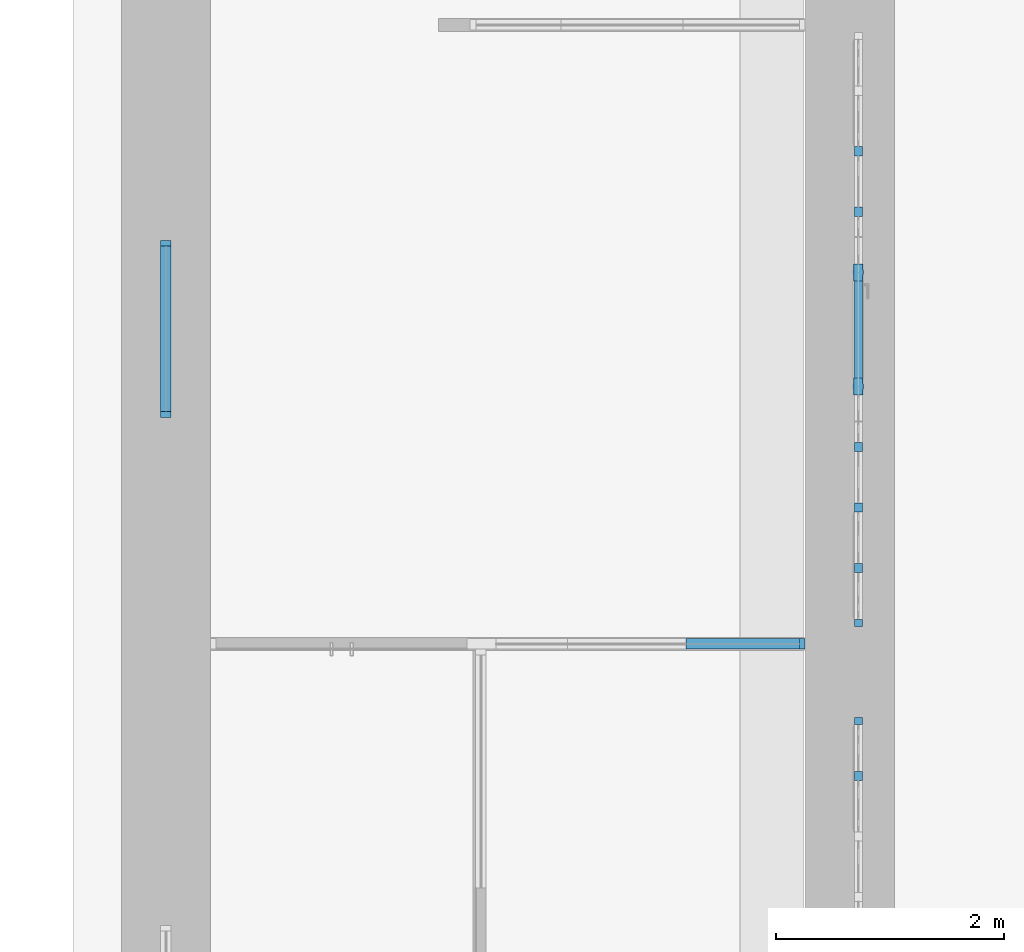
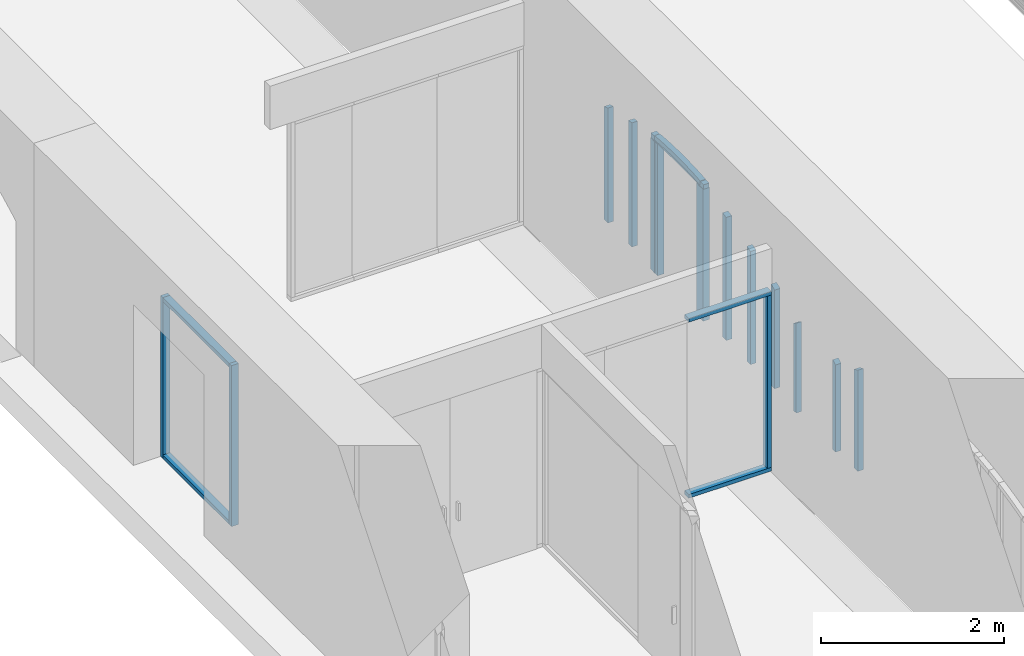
# One storey, part 6 of 88: 19 members, 4 elements without a shape of their own.
"""IFC2X3 building model written with IfcOpenShell, lengths in millimetres."""

from ifc_helpers import new_model, entity, si_unit, converted_unit, derived_unit, direction, frame, frame_2d, origin, origin_2d_with_axis, place, context, subcontext, project, spatial, polyline, circle_curve, parameter, trimmed, segment, composite_curve, rectangle, outline, extrude, source, transform, mapped, material, type_object, type_shapes, element, aggregate, save


model = new_model("IFC2X3")

# Units and contexts
model_context = context("Model", 3, precision=0.01, world=origin(), true_north=direction((6.123031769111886e-17, 1.0)))
body_context = subcontext(model_context, "Body", "Model", "MODEL_VIEW")
ifc_project = project(units=[si_unit("LENGTHUNIT", "METRE", prefix="MILLI"), si_unit("AREAUNIT", "SQUARE_METRE"), si_unit("VOLUMEUNIT", "CUBIC_METRE"), converted_unit("PLANEANGLEUNIT", "DEGREE", entity("IfcPlaneAngleMeasure", 0.017453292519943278), si_unit("PLANEANGLEUNIT", "RADIAN"), dimensions=[0, 0, 0, 0, 0, 0, 0]), si_unit("MASSUNIT", "GRAM", prefix="KILO"), derived_unit("MASSDENSITYUNIT", [(si_unit("MASSUNIT", "GRAM", prefix="KILO"), 1), (si_unit("LENGTHUNIT", "METRE"), -3)]), derived_unit("IONCONCENTRATIONUNIT", [(si_unit("MASSUNIT", "GRAM", prefix="KILO"), 1), (si_unit("LENGTHUNIT", "METRE"), -3)]), derived_unit("MOMENTOFINERTIAUNIT", [(si_unit("LENGTHUNIT", "METRE"), 4)]), si_unit("TIMEUNIT", "SECOND"), si_unit("FREQUENCYUNIT", "HERTZ"), si_unit("THERMODYNAMICTEMPERATUREUNIT", "DEGREE_CELSIUS"), derived_unit("THERMALTRANSMITTANCEUNIT", [(si_unit("MASSUNIT", "GRAM", prefix="KILO"), 1), (si_unit("THERMODYNAMICTEMPERATUREUNIT", "KELVIN"), -1), (si_unit("TIMEUNIT", "SECOND"), -3)]), derived_unit("THERMALCONDUCTANCEUNIT", [(si_unit("MASSUNIT", "GRAM", prefix="KILO"), 1), (si_unit("THERMODYNAMICTEMPERATUREUNIT", "KELVIN"), -1), (si_unit("TIMEUNIT", "SECOND"), -3), (si_unit("LENGTHUNIT", "METRE"), 1)]), derived_unit("VOLUMETRICFLOWRATEUNIT", [(si_unit("LENGTHUNIT", "METRE", prefix="DECI"), 3), (si_unit("TIMEUNIT", "SECOND"), -1)]), derived_unit("MASSFLOWRATEUNIT", [(si_unit("MASSUNIT", "GRAM", prefix="KILO"), 1), (si_unit("TIMEUNIT", "SECOND"), -1)]), derived_unit("ROTATIONALFREQUENCYUNIT", [(si_unit("TIMEUNIT", "SECOND"), -1)]), si_unit("ELECTRICCURRENTUNIT", "AMPERE"), si_unit("ELECTRICVOLTAGEUNIT", "VOLT"), si_unit("POWERUNIT", "WATT"), si_unit("FORCEUNIT", "NEWTON", prefix="KILO"), si_unit("ILLUMINANCEUNIT", "LUX"), si_unit("LUMINOUSFLUXUNIT", "LUMEN"), si_unit("LUMINOUSINTENSITYUNIT", "CANDELA"), si_unit("ENERGYUNIT", "JOULE"), derived_unit("USERDEFINED", [(si_unit("MASSUNIT", "GRAM", prefix="KILO"), -1), (si_unit("LENGTHUNIT", "METRE"), -2), (si_unit("TIMEUNIT", "SECOND"), 3), (si_unit("LUMINOUSFLUXUNIT", "LUMEN"), 1)]), derived_unit("USERDEFINED", [(si_unit("MASSUNIT", "GRAM", prefix="KILO"), 1), (si_unit("TIMEUNIT", "SECOND"), -3), (si_unit("LENGTHUNIT", "METRE"), 3), (si_unit("ELECTRICCURRENTUNIT", "AMPERE"), -2)]), derived_unit("SOUNDPOWERUNIT", [(si_unit("MASSUNIT", "GRAM", prefix="KILO"), 1), (si_unit("TIMEUNIT", "SECOND"), -3), (si_unit("LENGTHUNIT", "METRE"), 2)]), derived_unit("SOUNDPRESSUREUNIT", [(si_unit("MASSUNIT", "GRAM", prefix="KILO"), 1), (si_unit("LENGTHUNIT", "METRE"), -1), (si_unit("TIMEUNIT", "SECOND"), -2)]), derived_unit("LINEARVELOCITYUNIT", [(si_unit("LENGTHUNIT", "METRE"), 1), (si_unit("TIMEUNIT", "SECOND"), -1)]), si_unit("PRESSUREUNIT", "PASCAL"), derived_unit("USERDEFINED", [(si_unit("MASSUNIT", "GRAM", prefix="KILO"), 1), (si_unit("LENGTHUNIT", "METRE"), -2), (si_unit("TIMEUNIT", "SECOND"), -2)]), derived_unit("LINEARFORCEUNIT", [(si_unit("MASSUNIT", "GRAM", prefix="KILO"), 1), (si_unit("TIMEUNIT", "SECOND"), -2)]), derived_unit("PLANARFORCEUNIT", [(si_unit("MASSUNIT", "GRAM", prefix="KILO"), 1), (si_unit("LENGTHUNIT", "METRE"), -1), (si_unit("TIMEUNIT", "SECOND"), -2)]), derived_unit("SPECIFICHEATCAPACITYUNIT", [(si_unit("THERMODYNAMICTEMPERATUREUNIT", "KELVIN"), -1), (si_unit("LENGTHUNIT", "METRE"), 2), (si_unit("TIMEUNIT", "SECOND"), -2)]), derived_unit("HEATFLUXDENSITYUNIT", [(si_unit("MASSUNIT", "GRAM", prefix="KILO"), 1), (si_unit("TIMEUNIT", "SECOND"), -3)]), derived_unit("HEATINGVALUEUNIT", [(si_unit("LENGTHUNIT", "METRE"), 2), (si_unit("TIMEUNIT", "SECOND"), -2)]), derived_unit("VAPORPERMEABILITYUNIT", [(si_unit("LENGTHUNIT", "METRE"), -1), (si_unit("TIMEUNIT", "SECOND"), 1)]), derived_unit("DYNAMICVISCOSITYUNIT", [(si_unit("MASSUNIT", "GRAM", prefix="KILO"), 1), (si_unit("TIMEUNIT", "SECOND"), -1), (si_unit("LENGTHUNIT", "METRE"), -1)]), derived_unit("THERMALEXPANSIONCOEFFICIENTUNIT", [(si_unit("THERMODYNAMICTEMPERATUREUNIT", "KELVIN"), -1)]), derived_unit("MODULUSOFELASTICITYUNIT", [(si_unit("MASSUNIT", "GRAM", prefix="KILO"), 1), (si_unit("LENGTHUNIT", "METRE"), -1), (si_unit("TIMEUNIT", "SECOND"), -2)]), derived_unit("ISOTHERMALMOISTURECAPACITYUNIT", [(si_unit("MASSUNIT", "GRAM", prefix="KILO"), -1), (si_unit("LENGTHUNIT", "METRE"), 3)]), derived_unit("MOISTUREDIFFUSIVITYUNIT", [(si_unit("TIMEUNIT", "SECOND"), -1), (si_unit("LENGTHUNIT", "METRE"), 2)]), derived_unit("MASSPERLENGTHUNIT", [(si_unit("MASSUNIT", "GRAM", prefix="KILO"), 1), (si_unit("LENGTHUNIT", "METRE"), -1)]), derived_unit("THERMALRESISTANCEUNIT", [(si_unit("MASSUNIT", "GRAM", prefix="KILO"), -1), (si_unit("TIMEUNIT", "SECOND"), 3), (si_unit("THERMODYNAMICTEMPERATUREUNIT", "KELVIN"), 1)]), derived_unit("ACCELERATIONUNIT", [(si_unit("LENGTHUNIT", "METRE"), 1), (si_unit("TIMEUNIT", "SECOND"), -2)]), derived_unit("ANGULARVELOCITYUNIT", [(si_unit("TIMEUNIT", "SECOND"), -1), (si_unit("PLANEANGLEUNIT", "RADIAN"), 1)]), derived_unit("LINEARSTIFFNESSUNIT", [(si_unit("MASSUNIT", "GRAM", prefix="KILO"), 1), (si_unit("TIMEUNIT", "SECOND"), -2)]), derived_unit("WARPINGCONSTANTUNIT", [(si_unit("LENGTHUNIT", "METRE"), 6)]), derived_unit("LINEARMOMENTUNIT", [(si_unit("MASSUNIT", "GRAM", prefix="KILO"), 1), (si_unit("LENGTHUNIT", "METRE"), 1), (si_unit("TIMEUNIT", "SECOND"), -2)]), derived_unit("TORQUEUNIT", [(si_unit("MASSUNIT", "GRAM", prefix="KILO"), 1), (si_unit("LENGTHUNIT", "METRE"), 2), (si_unit("TIMEUNIT", "SECOND"), -2)])], contexts=[model_context])

# Site, building, storey
site_placement = place(None, origin())
site = spatial("IfcSite", under=ifc_project, at=site_placement, Name="Default", CompositionType="ELEMENT")
building_placement = place(site_placement, origin())
building = spatial("IfcBuilding", under=site, at=building_placement, Name="Eesti Rahvusraamatukogu hoone renoveerimise projekteerimistööd", CompositionType="ELEMENT")
storey_placement = place(building_placement, origin())
storey = spatial("IfcBuildingStorey", under=building, at=storey_placement, Name="1. korrus", CompositionType="ELEMENT", Elevation=0.0)

# Curtain wall, members
curtain_wall_type_1 = type_object("IfcCurtainWallType", Name="Curtain Wall:VLS Klaasvahesein profiilita 38db", PredefinedType="NOTDEFINED")
curtain_wall_1_placement = place(storey_placement, origin())
curtain_wall_1 = element("IfcCurtainWall", 1, at=curtain_wall_1_placement, inside=storey, type_object=curtain_wall_type_1, Name="Curtain Wall:VLS Klaasvahesein profiilita 38db", ObjectType="Curtain Wall:VLS Klaasvahesein profiilita 38db")
ifc_material_1 = material(Name="Aluminum")
member_type_1 = type_object("IfcMemberType", Name="Rectangular Mullion:50mm x 92mm", PredefinedType="MULLION", material=ifc_material_1)
shared_shape_1 = source(origin(), body_context, "Body", "SweptSolid", [
    extrude(rectangle(XDim=50.0, YDim=92.0, at=frame_2d((0.0, 3.552713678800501e-15), x_axis=(1.0, 0.0))), frame((-25.0, 0.0, -1042.000000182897), z_axis=(0.0, 0.0, 1.0), x_axis=(-1.0, 0.0, 0.0)), (0.0, 0.0, 1.0), 1042.0000001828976),
])
type_shapes(member_type_1, [shared_shape_1])
member_1_placement = place(curtain_wall_1_placement, frame((-43370.0, 18670.0, 0.0), z_axis=(1.0, 0.0, 0.0), x_axis=(0.0, 0.0, -1.0)))
member_1 = element("IfcMember", 2, at=member_1_placement, type_object=member_type_1, material=ifc_material_1, Name="Rectangular Mullion:50mm x 92mm", ObjectType="Rectangular Mullion:50mm x 92mm", context=body_context, shape_type="MappedRepresentation", body=[
    mapped(shared_shape_1, transform((0.0, 0.0, 0.0), scale=1.0)),
])
member_type_2 = type_object("IfcMemberType", Name="Rectangular Mullion:50mm x 92mm", PredefinedType="MULLION", material=ifc_material_1)
shared_shape_2 = source(origin(), body_context, "Body", "SweptSolid", [
    extrude(rectangle(XDim=50.0, YDim=92.0, at=origin_2d_with_axis()), frame((-25.0, 0.0, -2300.0), z_axis=(0.0, 0.0, 1.0), x_axis=(-1.0, 0.0, 0.0)), (0.0, 0.0, 1.0), 2300.0),
])
type_shapes(member_type_2, [shared_shape_2])
member_2_placement = place(curtain_wall_1_placement, frame((-43370.0, 18670.0, 2350.0)))
member_2 = element("IfcMember", 3, at=member_2_placement, type_object=member_type_2, material=ifc_material_1, Name="Rectangular Mullion:50mm x 92mm", ObjectType="Rectangular Mullion:50mm x 92mm", context=body_context, shape_type="MappedRepresentation", body=[
    mapped(shared_shape_2, transform((0.0, 0.0, 0.0), scale=1.0)),
])
member_type_3 = type_object("IfcMemberType", Name="Rectangular Mullion:50mm x 92mm", PredefinedType="MULLION", material=ifc_material_1)
shared_shape_3 = source(origin(), body_context, "Body", "SweptSolid", [
    extrude(rectangle(XDim=50.0, YDim=92.0, at=frame_2d((0.0, 3.552713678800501e-15), x_axis=(1.0, 0.0))), frame((-25.0, 0.0, -1042.0000001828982), z_axis=(0.0, 0.0, 1.0), x_axis=(-1.0, 0.0, 0.0)), (0.0, 0.0, 1.0), 1042.0000001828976),
])
type_shapes(member_type_3, [shared_shape_3])
member_3_placement = place(curtain_wall_1_placement, frame((-44412.00000018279, 18670.0, 2400.0), z_axis=(-1.0, 0.0, 0.0), x_axis=(0.0, 0.0, 1.0)))
member_3 = element("IfcMember", 4, at=member_3_placement, type_object=member_type_3, material=ifc_material_1, Name="Rectangular Mullion:50mm x 92mm", ObjectType="Rectangular Mullion:50mm x 92mm", context=body_context, shape_type="MappedRepresentation", body=[
    mapped(shared_shape_3, transform((0.0, 0.0, 0.0), scale=1.0)),
])
aggregate(curtain_wall_1, [member_1, member_2, member_3])

curtain_wall_type_2 = type_object("IfcCurtainWallType", Name="Curtain Wall:Ak-05", PredefinedType="NOTDEFINED")
curtain_wall_2_placement = place(storey_placement, origin())
curtain_wall_2 = element("IfcCurtainWall", 5, at=curtain_wall_2_placement, inside=storey, type_object=curtain_wall_type_2, Name="Curtain Wall:Ak-05", ObjectType="Curtain Wall:Ak-05")
ifc_material_2 = material(Name="LUMION_dark steel window frames")
member_type_4 = type_object("IfcMemberType", Name="Rectangular Mullion:NEW 60x70mm", PredefinedType="MULLION", material=ifc_material_2)
shared_shape_4 = source(origin(), body_context, "Body", "SweptSolid", [
    extrude(outline(composite_curve([segment(polyline([(-75.01710683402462, -495.2424237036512), (-15.017106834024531, -495.2424237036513)]), True, "CONTINUOUS"), segment(trimmed(circle_curve(frame_2d((5448.26345993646, -495.24242370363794), x_axis=(-0.9836101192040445, 0.1803084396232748)), 5463.280566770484), [parameter(3.5622212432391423e-13)], [parameter(10.387726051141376)], True, "PARAMETER"), False, "CONTINUOUS"), segment(polyline([(74.52541041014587, 489.83317051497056), (15.508803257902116, 500.65167689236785)]), True, "CONTINUOUS"), segment(trimmed(circle_curve(frame_2d((5448.26345993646, -495.24242370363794), x_axis=(-0.9836101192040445, 0.1803084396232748)), 5523.280566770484), [parameter(3.5622212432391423e-13)], [parameter(10.387726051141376)], True, "PARAMETER"), True, "CONTINUOUS")], self_intersect=False)), frame((-75.01710683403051, -35.0, -495.2424237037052), z_axis=(0.0, 1.0, 0.0), x_axis=(-0.9836101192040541, 0.0, 0.18030843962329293)), (0.0, 0.0, 1.0), 69.99999999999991),
])
type_shapes(member_type_4, [shared_shape_4])
member_4_placement = place(curtain_wall_2_placement, frame((-42905.0, 20925.0, 2327.3219656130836), z_axis=(0.0, -0.9958941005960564, -0.09052591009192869), x_axis=(0.0, -0.09052591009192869, 0.9958941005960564)))
member_4 = element("IfcMember", 6, at=member_4_placement, type_object=member_type_4, material=ifc_material_2, Name="Rectangular Mullion:NEW 60x70mm", ObjectType="Rectangular Mullion:NEW 60x70mm", context=body_context, shape_type="MappedRepresentation", body=[
    mapped(shared_shape_4, transform((0.0, 0.0, 0.0), scale=1.0)),
])
member_type_5 = type_object("IfcMemberType", Name="Rectangular Mullion:NEW 150x90mm", PredefinedType="MULLION", material=ifc_material_2)
shared_shape_5 = source(origin(), body_context, "Body", "SweptSolid", [
    extrude(outline(polyline([(40.0, -20.0), (45.0, -20.0), (45.0, 20.0), (40.0, 20.0), (40.0, 75.0), (-40.0, 75.0), (-40.0, 20.0), (-45.0, 20.0), (-45.0, -20.0), (-40.0, -20.0), (-40.0, -75.0), (40.0, -75.0), (40.0, -20.0)])), frame((0.0, 0.0, -1760.0), z_axis=(0.0, 0.0, 1.0), x_axis=(0.0, -1.0, 0.0)), (0.0, 0.0, 1.0), 1759.9999999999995),
])
type_shapes(member_type_5, [shared_shape_5])
member_5_placement = place(curtain_wall_2_placement, frame((-42905.0, 21925.0, 500.0), z_axis=(0.0, 0.0, -1.0), x_axis=(0.0, -1.0, 0.0)))
member_5 = element("IfcMember", 7, at=member_5_placement, type_object=member_type_5, material=ifc_material_2, Name="Rectangular Mullion:NEW 150x90mm", ObjectType="Rectangular Mullion:NEW 150x90mm", context=body_context, shape_type="MappedRepresentation", body=[
    mapped(shared_shape_5, transform((0.0, 0.0, 0.0), scale=1.0)),
])
member_6_placement = place(curtain_wall_2_placement, frame((-42905.0, 20925.0, 500.0), z_axis=(0.0, 0.0, -1.0), x_axis=(0.0, -1.0, 0.0)))
member_6 = element("IfcMember", 8, at=member_6_placement, type_object=member_type_5, material=ifc_material_2, Name="Rectangular Mullion:NEW 150x90mm", ObjectType="Rectangular Mullion:NEW 150x90mm", context=body_context, shape_type="MappedRepresentation", body=[
    mapped(shared_shape_5, transform((0.0, 0.0, 0.0), scale=1.0)),
])
member_type_6 = type_object("IfcMemberType", Name="Rectangular Mullion:NEW 60x70mm", PredefinedType="MULLION", material=ifc_material_2)
shared_shape_6 = source(origin(), body_context, "Body", "SweptSolid", [
    extrude(outline(polyline([(-590.8870214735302, -30.0), (608.8836344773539, -30.0), (572.8904084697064, 30.0), (-590.8870214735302, 30.0), (-590.8870214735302, -30.0)])), frame((-30.0, -35.0, -590.8870214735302), z_axis=(0.0, 1.0, 0.0), x_axis=(0.0, 0.0, -1.0)), (0.0, 0.0, 1.0), 70.00000000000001),
])
type_shapes(member_type_6, [shared_shape_6])
member_7_placement = place(curtain_wall_2_placement, frame((-42905.0, 18825.0, 500.0), z_axis=(0.0, 0.0, -1.0), x_axis=(0.0, -1.0, 0.0)))
member_7 = element("IfcMember", 9, at=member_7_placement, type_object=member_type_6, material=ifc_material_2, Name="Rectangular Mullion:NEW 60x70mm", ObjectType="Rectangular Mullion:NEW 60x70mm", context=body_context, shape_type="MappedRepresentation", body=[
    mapped(shared_shape_6, transform((0.0, 0.0, 0.0), scale=1.0)),
])

# Curtain wall, member
curtain_wall_3_placement = place(storey_placement, origin())
curtain_wall_3 = element("IfcCurtainWall", 10, at=curtain_wall_3_placement, inside=storey, type_object=curtain_wall_type_2, Name="Curtain Wall:Ak-05", ObjectType="Curtain Wall:Ak-05")
member_type_7 = type_object("IfcMemberType", Name="Rectangular Mullion:NEW 60x70mm", PredefinedType="MULLION", material=ifc_material_2)
shared_shape_7 = source(origin(), body_context, "Body", "SweptSolid", [
    extrude(outline(polyline([(-608.8836344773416, -30.0), (590.8870214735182, -30.0), (590.8870214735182, 30.0), (-572.8904084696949, 30.0), (-608.8836344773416, -30.0)])), frame((-30.0, -35.0, -608.8836344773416), z_axis=(0.0, 1.0, 0.0), x_axis=(0.0, 0.0, -1.0)), (0.0, 0.0, 1.0), 70.00000000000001),
])
type_shapes(member_type_7, [shared_shape_7])
member_8_placement = place(curtain_wall_3_placement, frame((-42905.0, 18025.0, 1699.7706559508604), z_axis=(0.0, 0.0, 1.0), x_axis=(0.0, 1.0, 0.0)))
member_8 = element("IfcMember", 11, at=member_8_placement, type_object=member_type_7, material=ifc_material_2, Name="Rectangular Mullion:NEW 60x70mm", ObjectType="Rectangular Mullion:NEW 60x70mm", context=body_context, shape_type="MappedRepresentation", body=[
    mapped(shared_shape_7, transform((0.0, 0.0, 0.0), scale=1.0)),
])

# Member
member_type_8 = type_object("IfcMemberType", Name="Rectangular Mullion:NEW 60x70mm", PredefinedType="MULLION", material=ifc_material_2)
shared_shape_8 = source(origin(), body_context, "Body", "SweptSolid", [
    extrude(rectangle(XDim=60.0, YDim=70.0, at=frame_2d((0.0, -3.552713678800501e-15), x_axis=(1.0, 0.0))), frame((0.0, 0.0, -1150.0), z_axis=(0.0, 0.0, 1.0), x_axis=(-1.0, 0.0, 0.0)), (0.0, 0.0, 1.0), 1149.9999999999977),
])
type_shapes(member_type_8, [shared_shape_8])
member_9_placement = place(curtain_wall_2_placement, frame((-42905.0, 20850.0, 2290.0), z_axis=(0.0, -1.0, 0.0), x_axis=(0.0, 0.0, 1.0)))
member_9 = element("IfcMember", 12, at=member_9_placement, type_object=member_type_8, material=ifc_material_2, Name="Rectangular Mullion:NEW 60x70mm", ObjectType="Rectangular Mullion:NEW 60x70mm", context=body_context, shape_type="MappedRepresentation", body=[
    mapped(shared_shape_8, transform((0.0, 0.0, 0.0), scale=1.0)),
])

member_type_9 = type_object("IfcMemberType", Name="Rectangular Mullion:NEW 80x70mm", PredefinedType="MULLION", material=ifc_material_2)
shared_shape_9 = source(origin(), body_context, "Body", "SweptSolid", [
    extrude(outline(composite_curve([segment(polyline([(-802.4490834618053, -44.54077965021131), (515.2279674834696, -44.54077965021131)]), True, "CONTINUOUS"), segment(trimmed(circle_curve(frame_2d((-4515.729650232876, 2085.4592203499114), x_axis=(0.8822747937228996, -0.4707347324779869)), 5463.280566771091), [parameter(5.135238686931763)], [parameter(5.847495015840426)], True, "PARAMETER"), True, "CONTINUOUS"), segment(trimmed(circle_curve(frame_2d((-4515.729650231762, 2085.4592203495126), x_axis=(0.9256428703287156, -0.3783983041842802)), 5463.280566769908), [parameter(0.0)], [parameter(0.1958264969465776)], True, "PARAMETER"), True, "CONTINUOUS"), segment(polyline([(548.3531444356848, 35.45922034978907), (-802.4490834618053, 35.45922034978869)]), True, "CONTINUOUS"), segment(polyline([(-802.4490834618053, 35.45922034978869), (-802.4490834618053, -44.54077965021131)]), True, "CONTINUOUS")], self_intersect=False)), frame((-4.540779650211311, -35.0, -802.4490834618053), z_axis=(0.0, 1.0, 0.0), x_axis=(0.0, 0.0, -1.0)), (0.0, 0.0, 1.0), 69.99999999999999),
])
type_shapes(member_type_9, [shared_shape_9])
member_10_placement = place(curtain_wall_2_placement, frame((-42905.0, 19335.0, 540.0), z_axis=(0.0, 0.0, -1.0), x_axis=(0.0, -1.0, 0.0)))
member_10 = element("IfcMember", 13, at=member_10_placement, type_object=member_type_9, material=ifc_material_2, Name="Rectangular Mullion:NEW 80x70mm", ObjectType="Rectangular Mullion:NEW 80x70mm", context=body_context, shape_type="MappedRepresentation", body=[
    mapped(shared_shape_9, transform((0.0, 0.0, 0.0), scale=1.0)),
])

member_type_10 = type_object("IfcMemberType", Name="Rectangular Mullion:NEW 80x70mm", PredefinedType="MULLION", material=ifc_material_2)
shared_shape_10 = source(origin(), body_context, "Body", "SweptSolid", [
    extrude(outline(composite_curve([segment(polyline([(-914.4623251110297, -43.389290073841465), (595.9947117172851, -43.389290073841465)]), True, "CONTINUOUS"), segment(trimmed(circle_curve(frame_2d((-4627.7428918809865, 1556.6107099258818), x_axis=(0.9256428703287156, -0.37839830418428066)), 5463.280566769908), [parameter(5.204987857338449)], [parameter(5.828569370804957)], True, "PARAMETER"), True, "CONTINUOUS"), segment(trimmed(circle_curve(frame_2d((-4627.74289188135, 1556.6107099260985), x_axis=(0.9592847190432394, -0.28244083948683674)), 5463.280566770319), [parameter(0.0)], [parameter(0.25187197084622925)], True, "PARAMETER"), True, "CONTINUOUS"), segment(polyline([(619.8312668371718, 36.61070992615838), (-914.4623251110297, 36.610709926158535)]), True, "CONTINUOUS"), segment(polyline([(-914.4623251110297, 36.610709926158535), (-914.4623251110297, -43.389290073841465)]), True, "CONTINUOUS")], self_intersect=False)), frame((-3.389290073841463, -35.0, -914.4623251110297), z_axis=(0.0, 1.0, 0.0), x_axis=(0.0, 0.0, -1.0)), (0.0, 0.0, 1.0), 69.99999999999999),
])
type_shapes(member_type_10, [shared_shape_10])
member_11_placement = place(curtain_wall_2_placement, frame((-42905.0, 19865.0, 540.0), z_axis=(0.0, 0.0, -1.0), x_axis=(0.0, -1.0, 0.0)))
member_11 = element("IfcMember", 14, at=member_11_placement, type_object=member_type_10, material=ifc_material_2, Name="Rectangular Mullion:NEW 80x70mm", ObjectType="Rectangular Mullion:NEW 80x70mm", context=body_context, shape_type="MappedRepresentation", body=[
    mapped(shared_shape_10, transform((0.0, 0.0, 0.0), scale=1.0)),
])

member_type_11 = type_object("IfcMemberType", Name="Rectangular Mullion:NEW 80x70mm", PredefinedType="MULLION", material=ifc_material_2)
shared_shape_11 = source(origin(), body_context, "Body", "SweptSolid", [
    extrude(outline(composite_curve([segment(polyline([(-991.582057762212, -42.23780049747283), (652.61201854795, -42.23780049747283)]), True, "CONTINUOUS"), segment(trimmed(circle_curve(frame_2d((-4704.862624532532, 1027.7621995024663), x_axis=(0.9592847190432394, -0.28244083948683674)), 5463.280566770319), [parameter(5.111376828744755)], [parameter(5.658307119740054)], True, "PARAMETER"), True, "CONTINUOUS"), segment(trimmed(circle_curve(frame_2d((-4704.862624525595, 1027.7621995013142), x_axis=(0.9824581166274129, -0.18648337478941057)), 5463.2805667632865), [parameter(0.0)], [parameter(0.3073932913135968)], True, "PARAMETER"), True, "CONTINUOUS"), segment(polyline([(667.9703852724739, 37.76219950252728), (-991.582057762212, 37.76219950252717)]), True, "CONTINUOUS"), segment(polyline([(-991.582057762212, 37.76219950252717), (-991.582057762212, -42.23780049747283)]), True, "CONTINUOUS")], self_intersect=False)), frame((-2.237800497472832, -35.0, -991.582057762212), z_axis=(0.0, 1.0, 0.0), x_axis=(0.0, 0.0, -1.0)), (0.0, 0.0, 1.0), 70.00000000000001),
])
type_shapes(member_type_11, [shared_shape_11])
member_12_placement = place(curtain_wall_2_placement, frame((-42905.0, 20395.0, 540.0), z_axis=(0.0, 0.0, -1.0), x_axis=(0.0, -1.0, 0.0)))
member_12 = element("IfcMember", 15, at=member_12_placement, type_object=member_type_11, material=ifc_material_2, Name="Rectangular Mullion:NEW 80x70mm", ObjectType="Rectangular Mullion:NEW 80x70mm", context=body_context, shape_type="MappedRepresentation", body=[
    mapped(shared_shape_11, transform((0.0, 0.0, 0.0), scale=1.0)),
])

member_type_12 = type_object("IfcMemberType", Name="Rectangular Mullion:NEW 80x70mm", PredefinedType="MULLION", material=ifc_material_2)
shared_shape_12 = source(origin(), body_context, "Body", "SweptSolid", [
    extrude(outline(composite_curve([segment(polyline([(-991.5820577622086, -37.76219950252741), (667.9703852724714, -37.76219950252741)]), True, "CONTINUOUS"), segment(trimmed(circle_curve(frame_2d((-4704.862624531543, -1027.7621995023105), x_axis=(0.9891368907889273, 0.14699731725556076)), 5463.280566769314), [parameter(1.9872788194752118)], [parameter(2.294672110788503)], True, "PARAMETER"), True, "CONTINUOUS"), segment(trimmed(circle_curve(frame_2d((-4704.862624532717, -1027.7621995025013), x_axis=(0.9824581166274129, 0.18648337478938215)), 5463.280566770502), [parameter(0.0)], [parameter(0.546930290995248)], True, "PARAMETER"), True, "CONTINUOUS"), segment(polyline([(652.6120185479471, 42.23780049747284), (-991.5820577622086, 42.23780049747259)]), True, "CONTINUOUS"), segment(polyline([(-991.5820577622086, 42.23780049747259), (-991.5820577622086, -37.76219950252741)]), True, "CONTINUOUS")], self_intersect=False)), frame((2.237800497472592, -35.0, -991.5820577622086), z_axis=(0.0, 1.0, 0.0), x_axis=(0.0, 0.0, -1.0)), (0.0, 0.0, 1.0), 69.99999999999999),
])
type_shapes(member_type_12, [shared_shape_12])
member_13_placement = place(curtain_wall_2_placement, frame((-42905.0, 22455.0, 540.0), z_axis=(0.0, 0.0, -1.0), x_axis=(0.0, -1.0, 0.0)))
member_13 = element("IfcMember", 16, at=member_13_placement, type_object=member_type_12, material=ifc_material_2, Name="Rectangular Mullion:NEW 80x70mm", ObjectType="Rectangular Mullion:NEW 80x70mm", context=body_context, shape_type="MappedRepresentation", body=[
    mapped(shared_shape_12, transform((0.0, 0.0, 0.0), scale=1.0)),
])

member_type_13 = type_object("IfcMemberType", Name="Rectangular Mullion:NEW 80x70mm", PredefinedType="MULLION", material=ifc_material_2)
shared_shape_13 = source(origin(), body_context, "Body", "SweptSolid", [
    extrude(outline(composite_curve([segment(polyline([(-914.4623251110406, -36.610709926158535), (619.8312668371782, -36.610709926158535)]), True, "CONTINUOUS"), segment(trimmed(circle_curve(frame_2d((-4627.742891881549, -1556.6107099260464), x_axis=(0.9824581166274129, 0.18648337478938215)), 5463.280566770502), [parameter(5.406435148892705)], [parameter(5.658307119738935)], True, "PARAMETER"), True, "CONTINUOUS"), segment(trimmed(circle_curve(frame_2d((-4627.742891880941, -1556.6107099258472), x_axis=(0.9592847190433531, 0.28244083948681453)), 5463.280566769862), [parameter(0.0)], [parameter(0.6235815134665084)], True, "PARAMETER"), True, "CONTINUOUS"), segment(polyline([(595.9947117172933, 43.38929007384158), (-914.4623251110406, 43.389290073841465)]), True, "CONTINUOUS"), segment(polyline([(-914.4623251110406, 43.389290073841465), (-914.4623251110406, -36.610709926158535)]), True, "CONTINUOUS")], self_intersect=False)), frame((3.389290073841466, -35.0, -914.4623251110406), z_axis=(0.0, 1.0, 0.0), x_axis=(0.0, 0.0, -1.0)), (0.0, 0.0, 1.0), 69.99999999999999),
])
type_shapes(member_type_13, [shared_shape_13])
member_14_placement = place(curtain_wall_2_placement, frame((-42905.0, 22985.0, 540.0), z_axis=(0.0, 0.0, -1.0), x_axis=(0.0, -1.0, 0.0)))
member_14 = element("IfcMember", 17, at=member_14_placement, type_object=member_type_13, material=ifc_material_2, Name="Rectangular Mullion:NEW 80x70mm", ObjectType="Rectangular Mullion:NEW 80x70mm", context=body_context, shape_type="MappedRepresentation", body=[
    mapped(shared_shape_13, transform((0.0, 0.0, 0.0), scale=1.0)),
])

aggregate(curtain_wall_2, [member_4, member_5, member_6, member_7, member_9, member_10, member_11, member_12, member_13, member_14])

member_type_14 = type_object("IfcMemberType", Name="Rectangular Mullion:NEW 80x70mm", PredefinedType="MULLION", material=ifc_material_2)
shared_shape_14 = source(origin(), body_context, "Body", "SweptSolid", [
    extrude(outline(composite_curve([segment(polyline([(-802.4490834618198, -35.45922034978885), (548.3531444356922, -35.45922034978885)]), True, "CONTINUOUS"), segment(trimmed(circle_curve(frame_2d((-4515.72965023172, -2085.459220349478), x_axis=(0.9592847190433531, 0.28244083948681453)), 5463.280566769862), [parameter(5.63274287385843)], [parameter(5.828569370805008)], True, "PARAMETER"), True, "CONTINUOUS"), segment(trimmed(circle_curve(frame_2d((-4515.729650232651, -2085.4592203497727), x_axis=(0.9256428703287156, 0.37839830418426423)), 5463.280566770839), [parameter(0.0)], [parameter(0.7122563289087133)], True, "PARAMETER"), True, "CONTINUOUS"), segment(polyline([(515.2279674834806, 44.54077965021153), (-802.4490834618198, 44.54077965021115)]), True, "CONTINUOUS"), segment(polyline([(-802.4490834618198, 44.54077965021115), (-802.4490834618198, -35.45922034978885)]), True, "CONTINUOUS")], self_intersect=False)), frame((4.540779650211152, -35.0, -802.4490834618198), z_axis=(0.0, 1.0, 0.0), x_axis=(0.0, 0.0, -1.0)), (0.0, 0.0, 1.0), 70.00000000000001),
])
type_shapes(member_type_14, [shared_shape_14])
member_15_placement = place(curtain_wall_3_placement, frame((-42905.0, 17515.0, 540.0), z_axis=(0.0, 0.0, -1.0), x_axis=(0.0, -1.0, 0.0)))
member_15 = element("IfcMember", 18, at=member_15_placement, type_object=member_type_14, material=ifc_material_2, Name="Rectangular Mullion:NEW 80x70mm", ObjectType="Rectangular Mullion:NEW 80x70mm", context=body_context, shape_type="MappedRepresentation", body=[
    mapped(shared_shape_14, transform((0.0, 0.0, 0.0), scale=1.0)),
])

aggregate(curtain_wall_3, [member_8, member_15])

# Curtain wall, members
curtain_wall_4_placement = place(storey_placement, origin())
curtain_wall_4 = element("IfcCurtainWall", 19, at=curtain_wall_4_placement, inside=storey, type_object=curtain_wall_type_1, Name="Curtain Wall:VLS Klaasvahesein profiilita 38db", ObjectType="Curtain Wall:VLS Klaasvahesein profiilita 38db")
member_type_15 = type_object("IfcMemberType", Name="Rectangular Mullion:50mm x 92mm", PredefinedType="MULLION", material=ifc_material_1)
shared_shape_15 = source(origin(), body_context, "Body", "SweptSolid", [
    extrude(rectangle(XDim=50.0, YDim=92.0, at=frame_2d((0.0, 3.552713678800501e-15), x_axis=(1.0, 0.0))), frame((-25.0, 0.0, -1450.0), z_axis=(0.0, 0.0, 1.0), x_axis=(-1.0, 0.0, 0.0)), (0.0, 0.0, 1.0), 1449.9999999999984),
])
type_shapes(member_type_15, [shared_shape_15])
member_16_placement = place(curtain_wall_4_placement, frame((-48970.0, 20705.0, 2150.0), z_axis=(0.0, -1.0, 0.0), x_axis=(0.0, 0.0, 1.0)))
member_16 = element("IfcMember", 20, at=member_16_placement, type_object=member_type_15, material=ifc_material_1, Name="Rectangular Mullion:50mm x 92mm", ObjectType="Rectangular Mullion:50mm x 92mm", context=body_context, shape_type="MappedRepresentation", body=[
    mapped(shared_shape_15, transform((0.0, 0.0, 0.0), scale=1.0)),
])
member_type_16 = type_object("IfcMemberType", Name="Rectangular Mullion:50mm x 92mm", PredefinedType="MULLION", material=ifc_material_1)
shared_shape_16 = source(origin(), body_context, "Body", "SweptSolid", [
    extrude(rectangle(XDim=50.0, YDim=92.0, at=frame_2d((0.0, 3.552713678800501e-15), x_axis=(1.0, 0.0))), frame((-25.0, 0.0, -1450.0), z_axis=(0.0, 0.0, 1.0), x_axis=(-1.0, 0.0, 0.0)), (0.0, 0.0, 1.0), 1449.9999999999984),
])
type_shapes(member_type_16, [shared_shape_16])
member_17_placement = place(curtain_wall_4_placement, frame((-48970.0, 22155.0, 0.0), z_axis=(0.0, 1.0, 0.0), x_axis=(0.0, 0.0, -1.0)))
member_17 = element("IfcMember", 21, at=member_17_placement, type_object=member_type_16, material=ifc_material_1, Name="Rectangular Mullion:50mm x 92mm", ObjectType="Rectangular Mullion:50mm x 92mm", context=body_context, shape_type="MappedRepresentation", body=[
    mapped(shared_shape_16, transform((0.0, 0.0, 0.0), scale=1.0)),
])
member_type_17 = type_object("IfcMemberType", Name="Rectangular Mullion:50mm x 92mm", PredefinedType="MULLION", material=ifc_material_1)
shared_shape_17 = source(origin(), body_context, "Body", "SweptSolid", [
    extrude(rectangle(XDim=50.0, YDim=92.0, at=frame_2d((0.0, 3.552713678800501e-15), x_axis=(1.0, 0.0))), frame((-25.0, 0.0, -2150.0), z_axis=(0.0, 0.0, 1.0), x_axis=(-1.0, 0.0, 0.0)), (0.0, 0.0, 1.0), 2150.0),
])
type_shapes(member_type_17, [shared_shape_17])
member_18_placement = place(curtain_wall_4_placement, frame((-48970.0, 20655.0, 0.0), z_axis=(0.0, 0.0, -1.0), x_axis=(0.0, -1.0, 0.0)))
member_18 = element("IfcMember", 22, at=member_18_placement, type_object=member_type_17, material=ifc_material_1, Name="Rectangular Mullion:50mm x 92mm", ObjectType="Rectangular Mullion:50mm x 92mm", context=body_context, shape_type="MappedRepresentation", body=[
    mapped(shared_shape_17, transform((0.0, 0.0, 0.0), scale=1.0)),
])
member_type_18 = type_object("IfcMemberType", Name="Rectangular Mullion:50mm x 92mm", PredefinedType="MULLION", material=ifc_material_1)
shared_shape_18 = source(origin(), body_context, "Body", "SweptSolid", [
    extrude(rectangle(XDim=50.0, YDim=92.0, at=frame_2d((0.0, 3.552713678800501e-15), x_axis=(1.0, 0.0))), frame((-25.0, 0.0, -2150.0), z_axis=(0.0, 0.0, 1.0), x_axis=(-1.0, 0.0, 0.0)), (0.0, 0.0, 1.0), 2150.0),
])
type_shapes(member_type_18, [shared_shape_18])
member_19_placement = place(curtain_wall_4_placement, frame((-48970.0, 22205.0, 2150.0), z_axis=(0.0, 0.0, 1.0), x_axis=(0.0, 1.0, 0.0)))
member_19 = element("IfcMember", 23, at=member_19_placement, type_object=member_type_18, material=ifc_material_1, Name="Rectangular Mullion:50mm x 92mm", ObjectType="Rectangular Mullion:50mm x 92mm", context=body_context, shape_type="MappedRepresentation", body=[
    mapped(shared_shape_18, transform((0.0, 0.0, 0.0), scale=1.0)),
])
aggregate(curtain_wall_4, [member_16, member_17, member_18, member_19])

save(model, "model.ifc")
